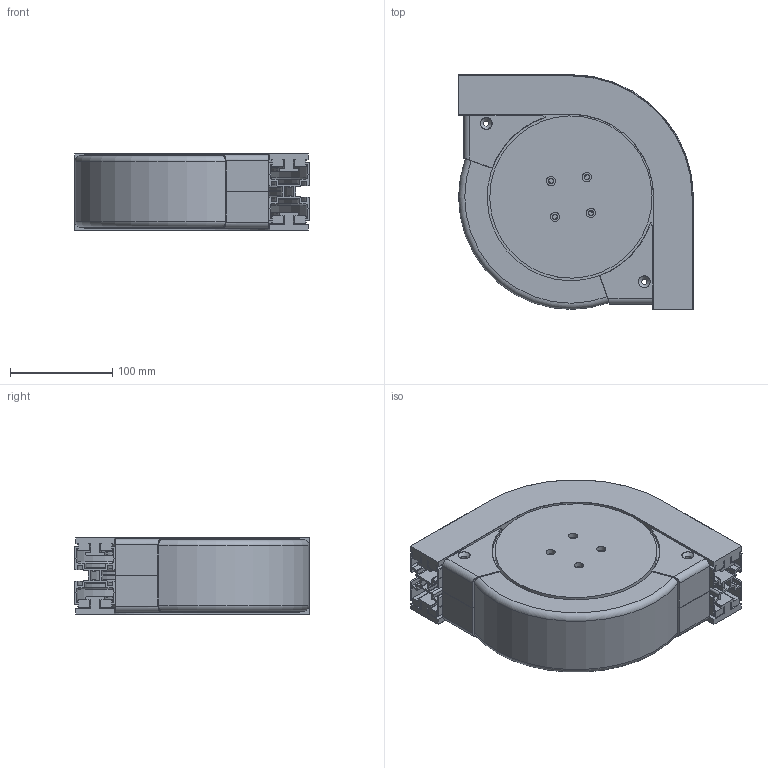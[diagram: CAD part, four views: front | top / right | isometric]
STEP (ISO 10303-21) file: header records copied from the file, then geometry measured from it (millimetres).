
FILE_DESCRIPTION((''),'2;1');
FILE_NAME('E:\Vault\Projekt\S380\3D S380\Serie 380\380-5010.stp','2010-11-30T15:57:54',('Per'),(''),'Autodesk Inventor 2011','Autodesk Inventor 2011','');
FILE_SCHEMA(('AUTOMOTIVE_DESIGN { 1 0 10303 214 1 1 1 1 }'));
Length unit declared in the file: millimetre
Products named in the file (1): 380-5010
Bounding box: 230 x 230 x 75 mm (x, y, z)
Volume: 1195255.2 mm3; surface area: 487157.9 mm2
Topology: 1 solids, 1 shells, 1063 faces, 2641 edges, 1480 vertices
Faces by surface type: cylinder 466, plane 305, torus 164, sphere 96, cone 16, bspline 16
Full cylindrical faces by diameter (mm): 5 x8, 5.2 x4, 9 x8, 25 x2, 38 x2, 159 x2
Entity records: 31820 total; most frequent: CARTESIAN_POINT 6093, DIRECTION 5704, ORIENTED_EDGE 4994, EDGE_CURVE 2497, AXIS2_PLACEMENT_3D 2221, VERTEX_POINT 1474, VECTOR 1262, LINE 1262
